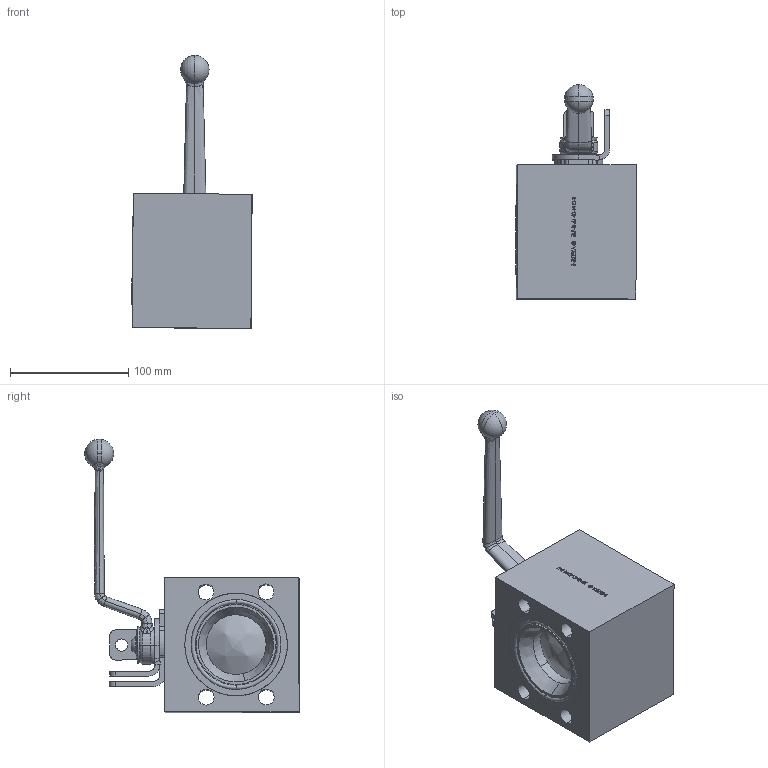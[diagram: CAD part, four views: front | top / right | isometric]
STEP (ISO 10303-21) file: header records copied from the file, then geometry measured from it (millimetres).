
FILE_DESCRIPTION (( 'STEP AP214' ), '1' );
FILE_NAME ('IBF-B-6140-N-D-T CLOSED~.STEP', '2026-01-28T16:28:55', ( '' ), ( '' ), 'SwSTEP 2.0', 'SolidWorks 2025', '' );
FILE_SCHEMA (( 'AUTOMOTIVE_DESIGN' ));
Length unit declared in the file: inch
Products named in the file (1): IBF-B-6140-N-D-T CLOSED~
Bounding box: 101.81 x 181.42 x 231.19 mm (x, y, z)
Volume: 1241543.4 mm3; surface area: 123045.2 mm2
Topology: 3 solids, 3 shells, 701 faces, 1942 edges, 1297 vertices
Faces by surface type: plane 384, bspline 205, cylinder 76, cone 16, torus 10, sphere 10
Entity records: 42255 total; most frequent: CARTESIAN_POINT 25909, ORIENTED_EDGE 3884, DIRECTION 2523, EDGE_CURVE 1942, VERTEX_POINT 1297, LINE 1069, VECTOR 1069, EDGE_LOOP 769
